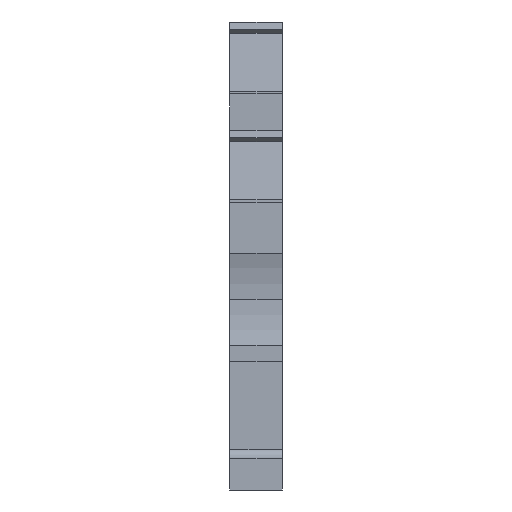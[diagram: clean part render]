
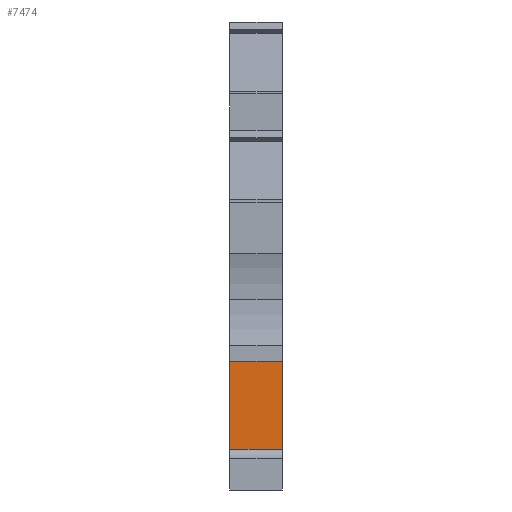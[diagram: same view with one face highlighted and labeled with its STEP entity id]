
A CAD part, front view. The second image highlights one B-rep face of the part: STEP entity #7474.
In plain terms, the highlighted planar face has unit normal (0, -1, 0).
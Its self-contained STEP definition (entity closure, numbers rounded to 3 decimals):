
#226=CARTESIAN_POINT('',(-0.,3.6,4.));
#227=VERTEX_POINT('',#226);
#234=CARTESIAN_POINT('',(0.,3.6,12.6));
#235=VERTEX_POINT('',#234);
#236=CARTESIAN_POINT('',(-0.,3.6,4.));
#237=DIRECTION('',(0.,0.,1.));
#238=VECTOR('',#237,8.6);
#239=LINE('',#236,#238);
#240=EDGE_CURVE('',#227,#235,#239,.T.);
#2640=CARTESIAN_POINT('',(5.15,3.6,12.6));
#2641=VERTEX_POINT('',#2640);
#2648=CARTESIAN_POINT('',(5.15,3.6,1.5));
#2649=VERTEX_POINT('',#2648);
#2650=CARTESIAN_POINT('',(5.15,3.6,1.5));
#2651=DIRECTION('',(0.,0.,1.));
#2652=VECTOR('',#2651,11.1);
#2653=LINE('',#2650,#2652);
#2654=EDGE_CURVE('',#2649,#2641,#2653,.T.);
#5009=CARTESIAN_POINT('',(0.,3.6,12.6));
#5010=DIRECTION('',(1.,-0.,-0.));
#5011=VECTOR('',#5010,5.15);
#5012=LINE('',#5009,#5011);
#5013=EDGE_CURVE('',#235,#2641,#5012,.T.);
#7442=CARTESIAN_POINT('',(5.15,3.6,4.));
#7443=DIRECTION('',(0.,-1.,0.));
#7444=DIRECTION('',(1.,-0.,-0.));
#7445=AXIS2_PLACEMENT_3D('',#7442,#7443,#7444);
#7446=PLANE('',#7445);
#7447=ORIENTED_EDGE('',*,*,#2654,.T.);
#7448=ORIENTED_EDGE('',*,*,#5013,.F.);
#7449=ORIENTED_EDGE('',*,*,#240,.F.);
#7450=CARTESIAN_POINT('',(1.,3.6,4.));
#7451=VERTEX_POINT('',#7450);
#7452=CARTESIAN_POINT('',(1.,3.6,4.));
#7453=DIRECTION('',(-1.,0.,0.));
#7454=VECTOR('',#7453,1.);
#7455=LINE('',#7452,#7454);
#7456=EDGE_CURVE('',#7451,#227,#7455,.T.);
#7457=ORIENTED_EDGE('',*,*,#7456,.F.);
#7458=CARTESIAN_POINT('',(1.,3.6,1.5));
#7459=VERTEX_POINT('',#7458);
#7460=CARTESIAN_POINT('',(1.,3.6,1.5));
#7461=DIRECTION('',(0.,0.,1.));
#7462=VECTOR('',#7461,2.5);
#7463=LINE('',#7460,#7462);
#7464=EDGE_CURVE('',#7459,#7451,#7463,.T.);
#7465=ORIENTED_EDGE('',*,*,#7464,.F.);
#7466=CARTESIAN_POINT('',(5.15,3.6,1.5));
#7467=DIRECTION('',(-1.,0.,0.));
#7468=VECTOR('',#7467,4.15);
#7469=LINE('',#7466,#7468);
#7470=EDGE_CURVE('',#2649,#7459,#7469,.T.);
#7471=ORIENTED_EDGE('',*,*,#7470,.F.);
#7472=EDGE_LOOP('',(#7447,#7448,#7449,#7457,#7465,#7471));
#7473=FACE_BOUND('',#7472,.T.);
#7474=ADVANCED_FACE('',(#7473),#7446,.T.);
